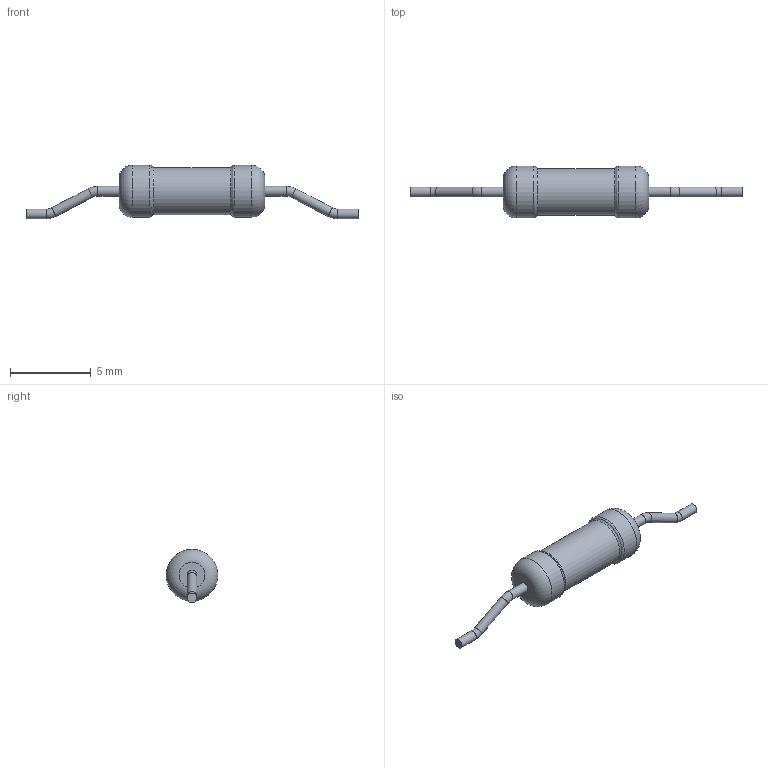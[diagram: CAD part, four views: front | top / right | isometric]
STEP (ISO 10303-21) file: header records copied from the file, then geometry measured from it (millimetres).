
FILE_DESCRIPTION(('STEP AP203'), '1');
FILE_NAME('ﾑ2-29ﾂ-0,25ﾀﾈ(3)', '', ('UNSPECIFIED'), ('UNSPECIFIED'), 'ASCON STEP Converter 1.6', 'ASCON Math Kernel', '');
FILE_SCHEMA(('CONFIG_CONTROL_DESIGN'));
Length unit declared in the file: millimetre
Bounding box: 20.5 x 3.2 x 3.3 mm (x, y, z)
Volume: 66.2 mm3; surface area: 118.4 mm2
Topology: 1 solids, 1 shells, 23 faces, 41 edges, 22 vertices
Faces by surface type: torus 10, cylinder 9, plane 4
Full cylindrical faces by diameter (mm): 0.6 x6, 2.9 x1, 3.2 x2
Entity records: 682 total; most frequent: DIRECTION 92, CARTESIAN_POINT 68, AXIS2_PLACEMENT_3D 46, EDGE_LOOP 44, ORIENTED_EDGE 44, FACE_OUTER_BOUND 38, COLOUR_RGB 24, FILL_AREA_STYLE_COLOUR 24
